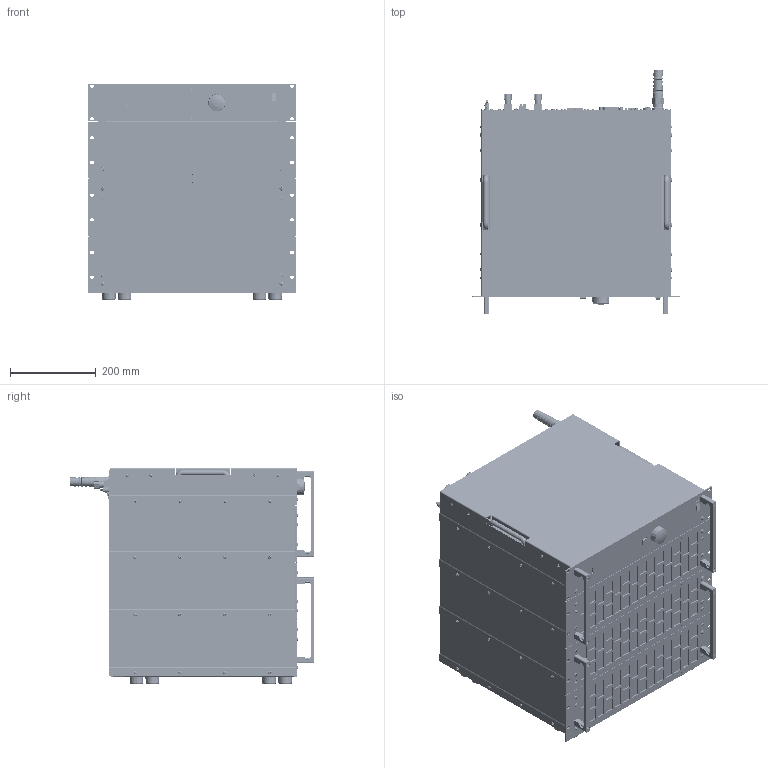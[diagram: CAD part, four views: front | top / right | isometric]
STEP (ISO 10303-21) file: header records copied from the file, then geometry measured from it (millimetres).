
FILE_DESCRIPTION(('STEP AP214'),'1');
FILE_NAME('QL_M27_19Z_11HE_BPK4_60L_3D_01.step','2022-03-15T10:52:38',(' '),(' '),'Spatial InterOp 3D',' ',' ');
FILE_SCHEMA(('AUTOMOTIVE_DESIGN { 1 0 10303 214 1 1 1 1 }'));
Length unit declared in the file: millimetre
Products named in the file (38): 3HE_Leistungsteil_mit_Gummifüssen_3D_01; *U404; *U405; *U406; *U415; AutoCreatedBlock_4226; 3HE_Leistungsteil_3D_01; *U420; *U421; *U422; AutoCreatedBlock_4252; DIN 966-A; Steuereinheit_BPK4_60L_mit_BG439_3D_01; 2121_Steuerteil_modular_Seitenteil_links_3D_02; 2122_Steuerteil_modular_Seitenteil_rechts_3D_02; A$C5EF2ED09; 3xM2.5_5x5x12; AutoCreatedBlock_4272; A$C6092449D; Frontplatte_5HE_Steuerteil_mit_Einbauten_3D; A$C60925E47; A$C60A76697; 2246_QL Rückwand Steuerteil 5HE_mit_Einbauten_3D_01; *U305; *U306; *U307; AutoCreatedBlock_4284; 2257_QL_IO Panel Standard_3D_01; 2084_IO-Port Abdeckung_3D_01; *U679; *U680; *U681; *U682; *U683; BG439_mit_MT2345_3D_01; AutoCreatedBlock_4262; AutoCreatedBlock_4222
Assembly tree (150 placements, depth 4):
  (unnamed)
    3HE_Leistungsteil_mit_Gummifüssen_3D_01
      *U404  x10
      *U405  x6
      *U406  x6
      *U415  x6
      AutoCreatedBlock_4226
    3HE_Leistungsteil_3D_01  x2
      *U420
      *U421
      *U422
      AutoCreatedBlock_4252
    DIN 966-A  x8
    Steuereinheit_BPK4_60L_mit_BG439_3D_01
      2121_Steuerteil_modular_Seitenteil_links_3D_02
      2122_Steuerteil_modular_Seitenteil_rechts_3D_02
      A$C5EF2ED09
        3xM2.5_5x5x12  x2
        AutoCreatedBlock_4272
      A$C6092449D
      Frontplatte_5HE_Steuerteil_mit_Einbauten_3D
      A$C60925E47
      A$C60A76697
      2246_QL Rückwand Steuerteil 5HE_mit_Einbauten_3D_01
        *U305
        *U306  x2
        *U307  x3
        AutoCreatedBlock_4284
      2257_QL_IO Panel Standard_3D_01
      2084_IO-Port Abdeckung_3D_01  x2
      *U679  x17
      *U680  x9
      *U681  x26
      *U682  x2
      *U683  x4
      BG439_mit_MT2345_3D_01
      AutoCreatedBlock_4262
    AutoCreatedBlock_4222
Bounding box: 482.61 x 569.25 x 504.57 mm (x, y, z)
Volume: 42948387.5 mm3; surface area: 5965756.6 mm2
Topology: 427 solids, 1188 shells, 30444 faces, 78604 edges, 50322 vertices
Faces by surface type: plane 14226, cone 10561, cylinder 4543, torus 483, sphere 336, bspline 273, extrusion 22
Entity records: 857822 total; most frequent: CARTESIAN_POINT 158685, DIRECTION 112111, ORIENTED_EDGE 105640, EDGE_CURVE 54200, AXIS2_PLACEMENT_3D 38060, VECTOR 35991, LINE 35969, VERTEX_POINT 34505
